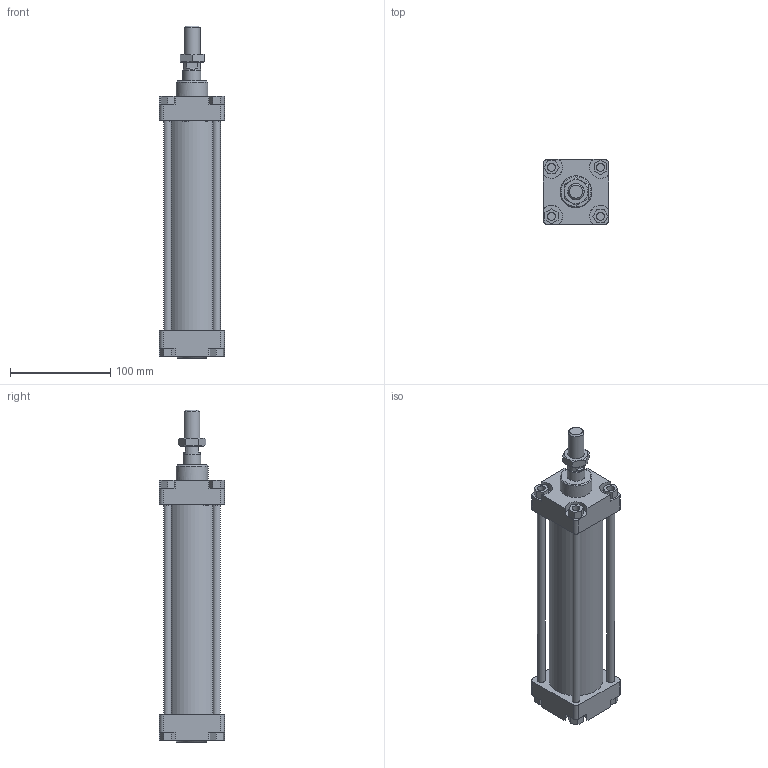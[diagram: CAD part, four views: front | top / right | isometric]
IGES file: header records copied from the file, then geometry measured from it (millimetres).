
Global section: file name: 1303_050_0150_01A; native system: Autodesk Inventor 2014; preprocessor: unknown; author: A. Manieri; date: 20161123.150227; units: millimetre
Bounding box: 65 x 65 x 332 mm (x, y, z)
Volume: 474381.6 mm3; surface area: 162323 mm2
Topology: 9 solids, 9 shells, 163 faces, 401 edges, 268 vertices
Faces by surface type: bspline 163
